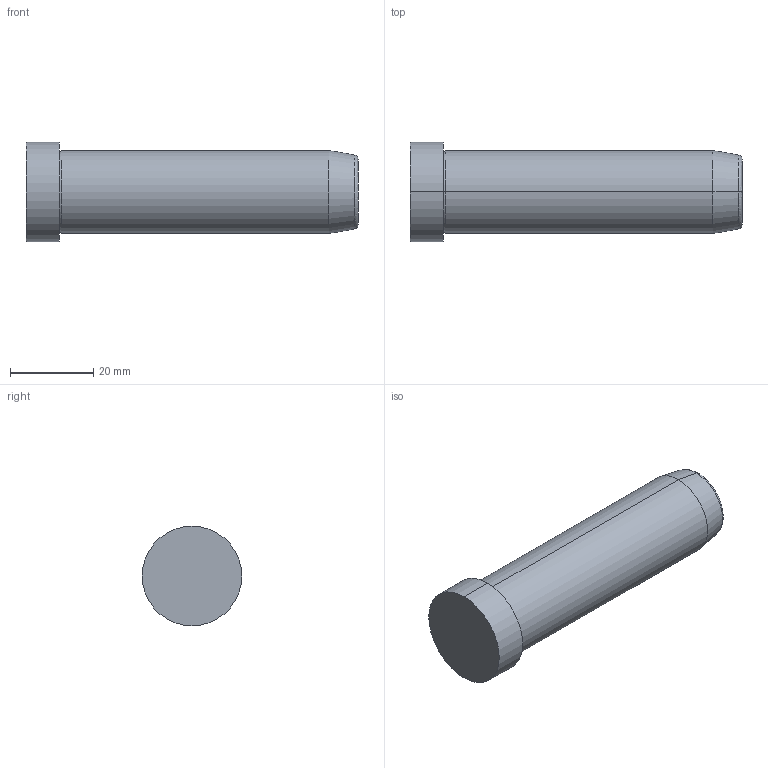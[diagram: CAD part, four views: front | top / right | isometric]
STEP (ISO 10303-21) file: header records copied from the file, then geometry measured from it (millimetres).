
FILE_DESCRIPTION( ( 'STEP AP203' ), '1' );
FILE_NAME( 'D:/Delta 3 D/D01D/20/D01D - 20x80.step', '2003-01-02T23:23:44', ( ' ' ), ( ' ' ), 'XStep 1.0', ' ', ' ' );
FILE_SCHEMA( ( 'CONFIG_CONTROL_DESIGN' ) );
Length unit declared in the file: metre
Products named in the file (1): 1
Bounding box: 80 x 24 x 24 mm (x, y, z)
Volume: 25962.9 mm3; surface area: 5952.7 mm2
Topology: 1 solids, 1 shells, 14 faces, 26 edges, 16 vertices
Faces by surface type: revolution 8, bspline 6
Entity records: 437 total; most frequent: CARTESIAN_POINT 121, ORIENTED_EDGE 52, DIRECTION 50, EDGE_CURVE 26, AXIS2_PLACEMENT_3D 17, EDGE_LOOP 16, VERTEX_POINT 16, CIRCLE 16
